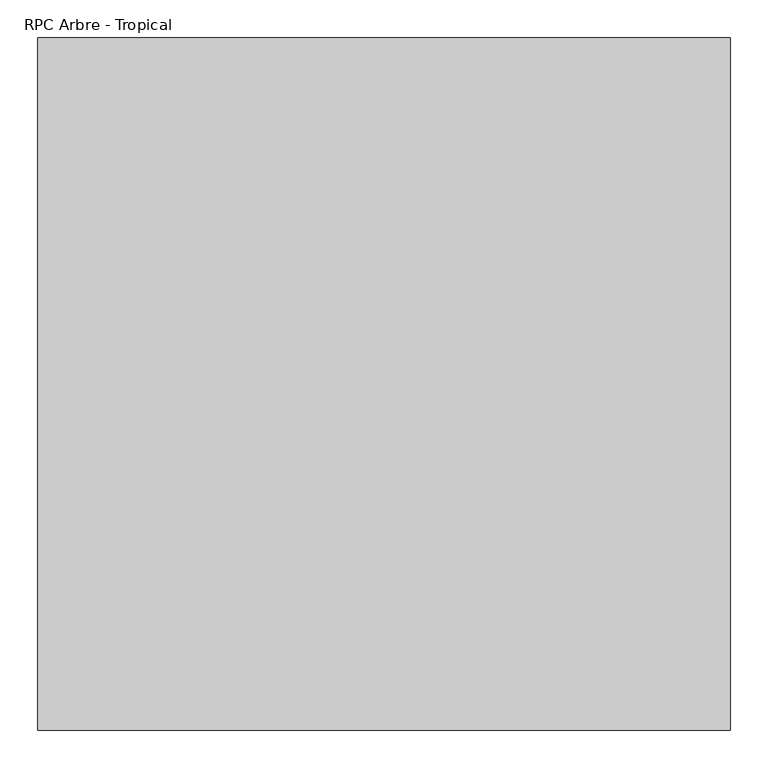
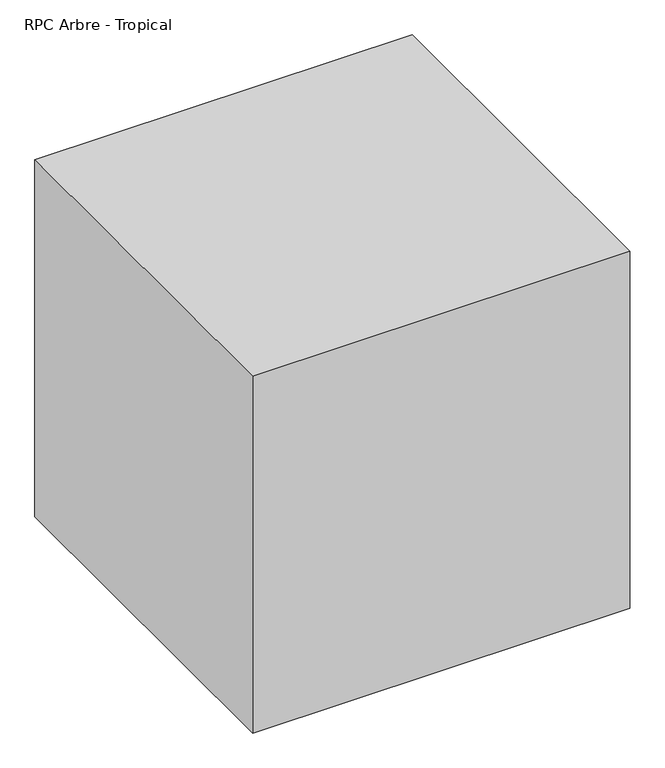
"""IFC4 building model written with IfcOpenShell, lengths in millimetres: geographic element geometry, RPC Arbre - Tropical : Palmier princesse - 3.6 mètres."""

from ifc_helpers import new_model, si_unit, origin, origin_with_axes, place, context, project, spatial, polyline, outline, extrude, source, transform, mapped, element, save


def rpc_arbre_tropical_625bb648(model_context):
    return source(origin(), model_context, "Body", "SweptSolid", [
        extrude(outline(polyline([(-457.0033289, -457.2), (-457.0033289, 457.2), (457.3966711, 457.2), (457.3966711, -457.2), (-457.0033289, -457.2)])), origin_with_axes(), (0.0, 0.0, 1.0), 914.4),
    ])


if __name__ == "__main__":
    model = new_model("IFC4")
    model_context = context("Model", 3, world=origin())
    ifc_project = project(units=[si_unit("LENGTHUNIT", "METRE", prefix="MILLI")], contexts=[model_context])
    site = spatial("IfcSite", under=ifc_project)
    building = spatial("IfcBuilding", under=site)
    placement = place(None, origin())
    rpc_arbre_tropical_shape = rpc_arbre_tropical_625bb648(model_context)
    element("IfcGeographicElement", 1, ObjectType="RPC Arbre - Tropical : Palmier princesse - 3.6 mètres", at=placement, inside=building, context=model_context, shape_type="MappedRepresentation", body=[
        mapped(rpc_arbre_tropical_shape, transform((0.0, 0.0, 0.0), x_axis=(1.0, 0.0, 0.0), y_axis=(0.0, 1.0, 0.0), z_axis=(0.0, 0.0, 1.0))),
    ])
    save(model, "model.ifc")
